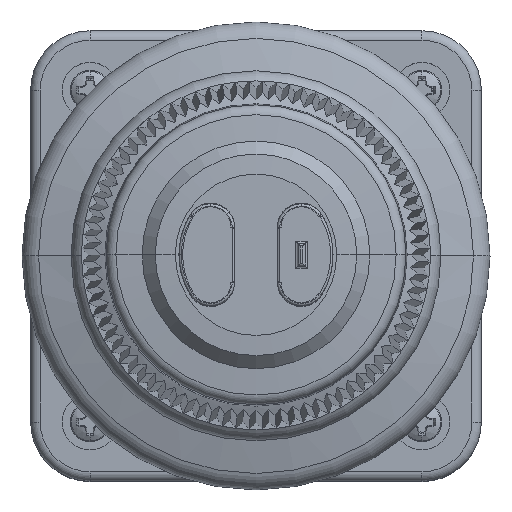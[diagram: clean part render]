
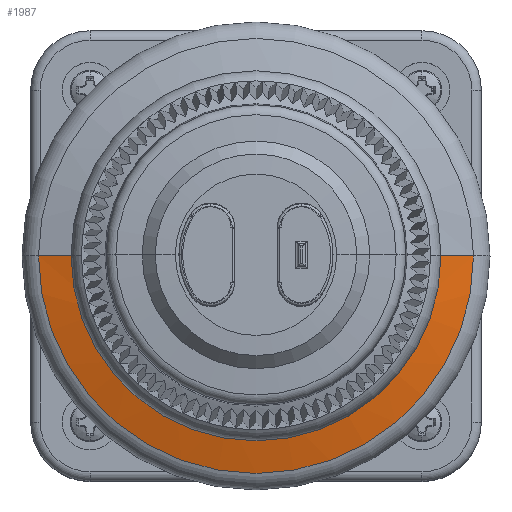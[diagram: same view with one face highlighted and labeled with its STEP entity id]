
A CAD part, top view. The second image highlights one B-rep face of the part: STEP entity #1987.
In plain terms, the highlighted conical face has half-angle 75 degrees and reference radius 11.437 mm.
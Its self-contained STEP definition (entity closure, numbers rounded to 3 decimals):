
#1987 = ADVANCED_FACE('',(#1988),#2003,.T.);
#1988 = FACE_BOUND('',#1989,.T.);
#1989 = EDGE_LOOP('',(#1990,#2014,#2042,#2071));
#1990 = ORIENTED_EDGE('',*,*,#1991,.T.);
#1991 = EDGE_CURVE('',#1992,#1994,#1996,.T.);
#1992 = VERTEX_POINT('',#1993);
#1993 = CARTESIAN_POINT('',(11.437,0.,
    12.621));
#1994 = VERTEX_POINT('',#1995);
#1995 = CARTESIAN_POINT('',(-11.437,0.,
    12.621));
#1996 = SURFACE_CURVE('',#1997,(#2002),.PCURVE_S1.);
#1997 = CIRCLE('',#1998,11.437);
#1998 = AXIS2_PLACEMENT_3D('',#1999,#2000,#2001);
#1999 = CARTESIAN_POINT('',(0.,0.,
    12.621));
#2000 = DIRECTION('',(0.,0.,-1.));
#2001 = DIRECTION('',(1.,0.,0.));
#2002 = PCURVE('',#2003,#2008);
#2003 = CONICAL_SURFACE('',#2004,11.437,1.309);
#2004 = AXIS2_PLACEMENT_3D('',#2005,#2006,#2007);
#2005 = CARTESIAN_POINT('',(0.,0.,
    12.621));
#2006 = DIRECTION('',(0.,0.,-1.));
#2007 = DIRECTION('',(1.,0.,0.));
#2008 = DEFINITIONAL_REPRESENTATION('',(#2009),#2013);
#2009 = LINE('',#2010,#2011);
#2010 = CARTESIAN_POINT('',(0.,0.));
#2011 = VECTOR('',#2012,1.);
#2012 = DIRECTION('',(1.,0.));
#2013 = ( GEOMETRIC_REPRESENTATION_CONTEXT(2) 
PARAMETRIC_REPRESENTATION_CONTEXT() REPRESENTATION_CONTEXT('2D SPACE',''
  ) );
#2014 = ORIENTED_EDGE('',*,*,#2015,.T.);
#2015 = EDGE_CURVE('',#1994,#2016,#2018,.T.);
#2016 = VERTEX_POINT('',#2017);
#2017 = CARTESIAN_POINT('',(-23.298,0.,
    9.443));
#2018 = SURFACE_CURVE('',#2019,(#2023,#2030),.PCURVE_S1.);
#2019 = LINE('',#2020,#2021);
#2020 = CARTESIAN_POINT('',(-11.437,0.,
    12.621));
#2021 = VECTOR('',#2022,1.);
#2022 = DIRECTION('',(-0.966,0.,
    -0.259));
#2023 = PCURVE('',#2003,#2024);
#2024 = DEFINITIONAL_REPRESENTATION('',(#2025),#2029);
#2025 = LINE('',#2026,#2027);
#2026 = CARTESIAN_POINT('',(3.142,0.));
#2027 = VECTOR('',#2028,1.);
#2028 = DIRECTION('',(0.,1.));
#2029 = ( GEOMETRIC_REPRESENTATION_CONTEXT(2) 
PARAMETRIC_REPRESENTATION_CONTEXT() REPRESENTATION_CONTEXT('2D SPACE',''
  ) );
#2030 = PCURVE('',#2031,#2036);
#2031 = CONICAL_SURFACE('',#2032,11.437,1.309);
#2032 = AXIS2_PLACEMENT_3D('',#2033,#2034,#2035);
#2033 = CARTESIAN_POINT('',(0.,0.,
    12.621));
#2034 = DIRECTION('',(0.,0.,-1.));
#2035 = DIRECTION('',(1.,0.,0.));
#2036 = DEFINITIONAL_REPRESENTATION('',(#2037),#2041);
#2037 = LINE('',#2038,#2039);
#2038 = CARTESIAN_POINT('',(3.142,0.));
#2039 = VECTOR('',#2040,1.);
#2040 = DIRECTION('',(0.,1.));
#2041 = ( GEOMETRIC_REPRESENTATION_CONTEXT(2) 
PARAMETRIC_REPRESENTATION_CONTEXT() REPRESENTATION_CONTEXT('2D SPACE',''
  ) );
#2042 = ORIENTED_EDGE('',*,*,#2043,.F.);
#2043 = EDGE_CURVE('',#2044,#2016,#2046,.T.);
#2044 = VERTEX_POINT('',#2045);
#2045 = CARTESIAN_POINT('',(23.298,0.,
    9.443));
#2046 = SURFACE_CURVE('',#2047,(#2052,#2059),.PCURVE_S1.);
#2047 = CIRCLE('',#2048,23.298);
#2048 = AXIS2_PLACEMENT_3D('',#2049,#2050,#2051);
#2049 = CARTESIAN_POINT('',(0.,0.,
    9.443));
#2050 = DIRECTION('',(0.,0.,-1.));
#2051 = DIRECTION('',(1.,0.,0.));
#2052 = PCURVE('',#2003,#2053);
#2053 = DEFINITIONAL_REPRESENTATION('',(#2054),#2058);
#2054 = LINE('',#2055,#2056);
#2055 = CARTESIAN_POINT('',(0.,3.178));
#2056 = VECTOR('',#2057,1.);
#2057 = DIRECTION('',(1.,0.));
#2058 = ( GEOMETRIC_REPRESENTATION_CONTEXT(2) 
PARAMETRIC_REPRESENTATION_CONTEXT() REPRESENTATION_CONTEXT('2D SPACE',''
  ) );
#2059 = PCURVE('',#2060,#2065);
#2060 = TOROIDAL_SURFACE('',#2061,22.68,2.388);
#2061 = AXIS2_PLACEMENT_3D('',#2062,#2063,#2064);
#2062 = CARTESIAN_POINT('',(0.,0.,
    7.137));
#2063 = DIRECTION('',(0.,0.,-1.));
#2064 = DIRECTION('',(1.,0.,0.));
#2065 = DEFINITIONAL_REPRESENTATION('',(#2066),#2070);
#2066 = LINE('',#2067,#2068);
#2067 = CARTESIAN_POINT('',(0.,4.974));
#2068 = VECTOR('',#2069,1.);
#2069 = DIRECTION('',(1.,0.));
#2070 = ( GEOMETRIC_REPRESENTATION_CONTEXT(2) 
PARAMETRIC_REPRESENTATION_CONTEXT() REPRESENTATION_CONTEXT('2D SPACE',''
  ) );
#2071 = ORIENTED_EDGE('',*,*,#2072,.F.);
#2072 = EDGE_CURVE('',#1992,#2044,#2073,.T.);
#2073 = SURFACE_CURVE('',#2074,(#2078,#2085),.PCURVE_S1.);
#2074 = LINE('',#2075,#2076);
#2075 = CARTESIAN_POINT('',(11.437,0.,
    12.621));
#2076 = VECTOR('',#2077,1.);
#2077 = DIRECTION('',(0.966,0.,-0.259
    ));
#2078 = PCURVE('',#2003,#2079);
#2079 = DEFINITIONAL_REPRESENTATION('',(#2080),#2084);
#2080 = LINE('',#2081,#2082);
#2081 = CARTESIAN_POINT('',(0.,0.));
#2082 = VECTOR('',#2083,1.);
#2083 = DIRECTION('',(0.,1.));
#2084 = ( GEOMETRIC_REPRESENTATION_CONTEXT(2) 
PARAMETRIC_REPRESENTATION_CONTEXT() REPRESENTATION_CONTEXT('2D SPACE',''
  ) );
#2085 = PCURVE('',#2031,#2086);
#2086 = DEFINITIONAL_REPRESENTATION('',(#2087),#2091);
#2087 = LINE('',#2088,#2089);
#2088 = CARTESIAN_POINT('',(6.283,0.));
#2089 = VECTOR('',#2090,1.);
#2090 = DIRECTION('',(0.,1.));
#2091 = ( GEOMETRIC_REPRESENTATION_CONTEXT(2) 
PARAMETRIC_REPRESENTATION_CONTEXT() REPRESENTATION_CONTEXT('2D SPACE',''
  ) );
